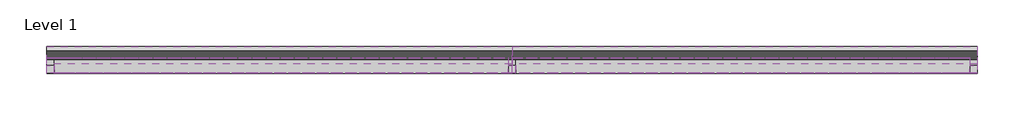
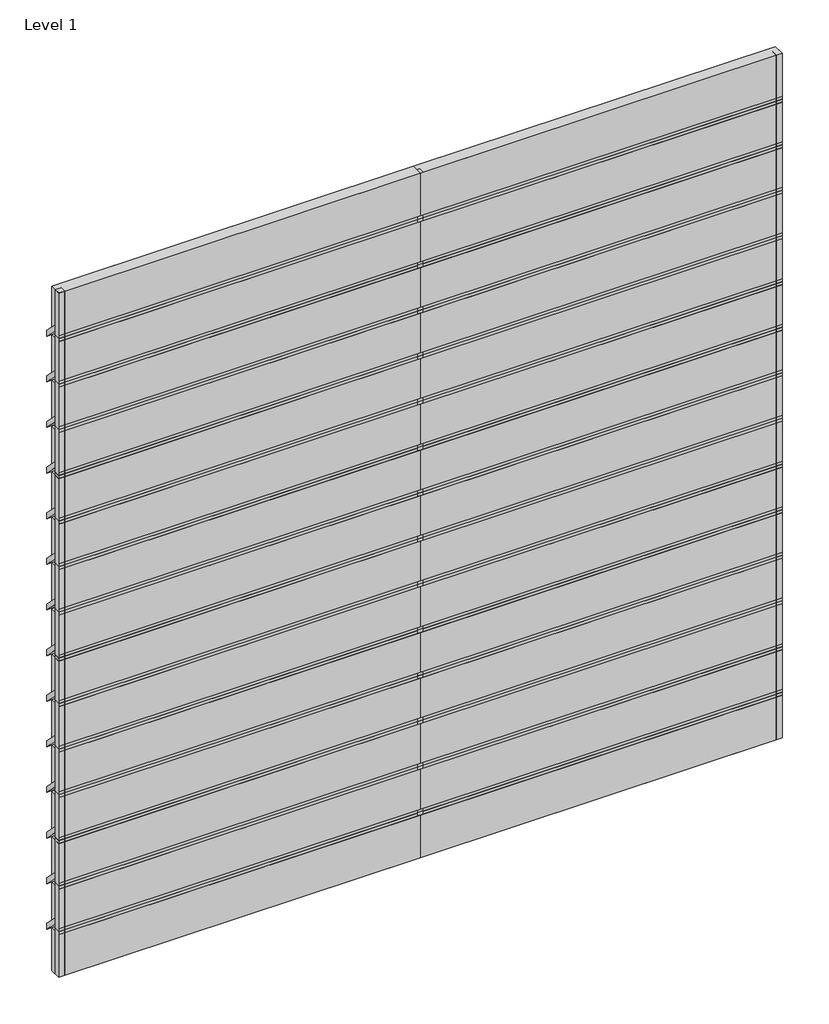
# One storey: 73 members, 60 plates.
"""IFC4 building model written with IfcOpenShell, lengths in millimetres."""

from ifc_helpers import new_model, si_unit, origin, place, context, project, spatial, transform, mapped, element, save
from components import rectangular_mullion_321bab66, rectangular_mullion_3c6e38bc, rectangular_mullion_05cc9e47, rectangular_mullion_4a4034a1, empty_system_panel_empty_1240f5db, empty_system_panel_empty_409dc61d, empty_system_panel_empty_0ce9900c

model = new_model("IFC4")

# Units and contexts
model_context = context("Model", 3, world=origin())
ifc_project = project(units=[si_unit("LENGTHUNIT", "METRE", prefix="MILLI")], contexts=[model_context])

# Site, building, storey
site = spatial("IfcSite", under=ifc_project)
building = spatial("IfcBuilding", under=site)
storey = spatial("IfcBuildingStorey", under=building, Name="Level 1", Elevation=0.0)

# Members
placement = place(None, origin())
rectangular_mullion_shape = rectangular_mullion_321bab66(model_context)
element("IfcMember", 1, ObjectType="Rectangular Mullion : RSen_21_CWM_blade - linear 200_gen_duco projects", at=placement, inside=storey, context=model_context, shape_type="MappedRepresentation", body=[
    mapped(rectangular_mullion_shape, transform((3000.0, 3000.0, 400.0), x_axis=(0.0, 0.0, 1.0), y_axis=(0.0, 1.0, 0.0), z_axis=(-1.0, 0.0, 0.0))),
])
element("IfcMember", 2, ObjectType="Rectangular Mullion : RSen_21_CWM_blade - linear 200_gen_duco projects", at=placement, inside=storey, context=model_context, shape_type="MappedRepresentation", body=[
    mapped(rectangular_mullion_shape, transform((3000.0, 3000.0, 800.0), x_axis=(0.0, 0.0, 1.0), y_axis=(0.0, 1.0, 0.0), z_axis=(-1.0, 0.0, 0.0))),
])
element("IfcMember", 3, ObjectType="Rectangular Mullion : RSen_21_CWM_blade - linear 200_gen_duco projects", at=placement, inside=storey, context=model_context, shape_type="MappedRepresentation", body=[
    mapped(rectangular_mullion_shape, transform((3000.0, 3000.0, 1200.0), x_axis=(0.0, 0.0, 1.0), y_axis=(0.0, 1.0, 0.0), z_axis=(-1.0, 0.0, 0.0))),
])
element("IfcMember", 4, ObjectType="Rectangular Mullion : RSen_21_CWM_blade - linear 200_gen_duco projects", at=placement, inside=storey, context=model_context, shape_type="MappedRepresentation", body=[
    mapped(rectangular_mullion_shape, transform((3000.0, 3000.0, 1600.0), x_axis=(0.0, 0.0, 1.0), y_axis=(0.0, 1.0, 0.0), z_axis=(-1.0, 0.0, 0.0))),
])
element("IfcMember", 5, ObjectType="Rectangular Mullion : RSen_21_CWM_blade - linear 200_gen_duco projects", at=placement, inside=storey, context=model_context, shape_type="MappedRepresentation", body=[
    mapped(rectangular_mullion_shape, transform((3000.0, 3000.0, 2000.0), x_axis=(0.0, 0.0, 1.0), y_axis=(0.0, 1.0, 0.0), z_axis=(-1.0, 0.0, 0.0))),
])
element("IfcMember", 6, ObjectType="Rectangular Mullion : RSen_21_CWM_blade - linear 200_gen_duco projects", at=placement, inside=storey, context=model_context, shape_type="MappedRepresentation", body=[
    mapped(rectangular_mullion_shape, transform((3000.0, 3000.0, 2400.0), x_axis=(0.0, 0.0, 1.0), y_axis=(0.0, 1.0, 0.0), z_axis=(-1.0, 0.0, 0.0))),
])
element("IfcMember", 7, ObjectType="Rectangular Mullion : RSen_21_CWM_blade - linear 200_gen_duco projects", at=placement, inside=storey, context=model_context, shape_type="MappedRepresentation", body=[
    mapped(rectangular_mullion_shape, transform((3000.0, 3000.0, 2800.0), x_axis=(0.0, 0.0, 1.0), y_axis=(0.0, 1.0, 0.0), z_axis=(-1.0, 0.0, 0.0))),
])
element("IfcMember", 8, ObjectType="Rectangular Mullion : RSen_21_CWM_blade - linear 200_gen_duco projects", at=placement, inside=storey, context=model_context, shape_type="MappedRepresentation", body=[
    mapped(rectangular_mullion_shape, transform((3000.0, 3000.0, 3200.0), x_axis=(0.0, 0.0, 1.0), y_axis=(0.0, 1.0, 0.0), z_axis=(-1.0, 0.0, 0.0))),
])
element("IfcMember", 9, ObjectType="Rectangular Mullion : RSen_21_CWM_blade - linear 200_gen_duco projects", at=placement, inside=storey, context=model_context, shape_type="MappedRepresentation", body=[
    mapped(rectangular_mullion_shape, transform((3000.0, 3000.0, 3600.0), x_axis=(0.0, 0.0, 1.0), y_axis=(0.0, 1.0, 0.0), z_axis=(-1.0, 0.0, 0.0))),
])
element("IfcMember", 10, ObjectType="Rectangular Mullion : RSen_21_CWM_blade - linear 200_gen_duco projects", at=placement, inside=storey, context=model_context, shape_type="MappedRepresentation", body=[
    mapped(rectangular_mullion_shape, transform((3000.0, 3000.0, 4000.0), x_axis=(0.0, 0.0, 1.0), y_axis=(0.0, 1.0, 0.0), z_axis=(-1.0, 0.0, 0.0))),
])
element("IfcMember", 11, ObjectType="Rectangular Mullion : RSen_21_CWM_blade - linear 200_gen_duco projects", at=placement, inside=storey, context=model_context, shape_type="MappedRepresentation", body=[
    mapped(rectangular_mullion_shape, transform((3000.0, 3000.0, 4400.0), x_axis=(0.0, 0.0, 1.0), y_axis=(0.0, 1.0, 0.0), z_axis=(-1.0, 0.0, 0.0))),
])
element("IfcMember", 12, ObjectType="Rectangular Mullion : RSen_21_CWM_blade - linear 200_gen_duco projects", at=placement, inside=storey, context=model_context, shape_type="MappedRepresentation", body=[
    mapped(rectangular_mullion_shape, transform((3000.0, 3000.0, 4800.0), x_axis=(0.0, 0.0, 1.0), y_axis=(0.0, 1.0, 0.0), z_axis=(-1.0, 0.0, 0.0))),
])
element("IfcMember", 13, ObjectType="Rectangular Mullion : RSen_21_CWM_blade - linear 200_gen_duco projects", at=placement, inside=storey, context=model_context, shape_type="MappedRepresentation", body=[
    mapped(rectangular_mullion_shape, transform((3000.0, 3000.0, 5200.0), x_axis=(0.0, 0.0, 1.0), y_axis=(0.0, 1.0, 0.0), z_axis=(-1.0, 0.0, 0.0))),
])
element("IfcMember", 14, ObjectType="Rectangular Mullion : RSen_21_CWM_blade - linear 200_gen_duco projects", at=placement, inside=storey, context=model_context, shape_type="MappedRepresentation", body=[
    mapped(rectangular_mullion_shape, transform((3000.0, 3000.0, 5600.0), x_axis=(0.0, 0.0, 1.0), y_axis=(0.0, 1.0, 0.0), z_axis=(-1.0, 0.0, 0.0))),
])
element("IfcMember", 15, ObjectType="Rectangular Mullion : RSen_21_CWM_blade - linear 200_gen_duco projects", at=placement, inside=storey, context=model_context, shape_type="MappedRepresentation", body=[
    mapped(rectangular_mullion_shape, transform((0.0, 3000.0, 400.0), x_axis=(0.0, 0.0, 1.0), y_axis=(0.0, 1.0, 0.0), z_axis=(-1.0, 0.0, 0.0))),
])
element("IfcMember", 16, ObjectType="Rectangular Mullion : RSen_21_CWM_blade - linear 200_gen_duco projects", at=placement, inside=storey, context=model_context, shape_type="MappedRepresentation", body=[
    mapped(rectangular_mullion_shape, transform((0.0, 3000.0, 800.0), x_axis=(0.0, 0.0, 1.0), y_axis=(0.0, 1.0, 0.0), z_axis=(-1.0, 0.0, 0.0))),
])
element("IfcMember", 17, ObjectType="Rectangular Mullion : RSen_21_CWM_blade - linear 200_gen_duco projects", at=placement, inside=storey, context=model_context, shape_type="MappedRepresentation", body=[
    mapped(rectangular_mullion_shape, transform((0.0, 3000.0, 1200.0), x_axis=(0.0, 0.0, 1.0), y_axis=(0.0, 1.0, 0.0), z_axis=(-1.0, 0.0, 0.0))),
])
element("IfcMember", 18, ObjectType="Rectangular Mullion : RSen_21_CWM_blade - linear 200_gen_duco projects", at=placement, inside=storey, context=model_context, shape_type="MappedRepresentation", body=[
    mapped(rectangular_mullion_shape, transform((0.0, 3000.0, 1600.0), x_axis=(0.0, 0.0, 1.0), y_axis=(0.0, 1.0, 0.0), z_axis=(-1.0, 0.0, 0.0))),
])
element("IfcMember", 19, ObjectType="Rectangular Mullion : RSen_21_CWM_blade - linear 200_gen_duco projects", at=placement, inside=storey, context=model_context, shape_type="MappedRepresentation", body=[
    mapped(rectangular_mullion_shape, transform((0.0, 3000.0, 2000.0), x_axis=(0.0, 0.0, 1.0), y_axis=(0.0, 1.0, 0.0), z_axis=(-1.0, 0.0, 0.0))),
])
element("IfcMember", 20, ObjectType="Rectangular Mullion : RSen_21_CWM_blade - linear 200_gen_duco projects", at=placement, inside=storey, context=model_context, shape_type="MappedRepresentation", body=[
    mapped(rectangular_mullion_shape, transform((0.0, 3000.0, 2400.0), x_axis=(0.0, 0.0, 1.0), y_axis=(0.0, 1.0, 0.0), z_axis=(-1.0, 0.0, 0.0))),
])
element("IfcMember", 21, ObjectType="Rectangular Mullion : RSen_21_CWM_blade - linear 200_gen_duco projects", at=placement, inside=storey, context=model_context, shape_type="MappedRepresentation", body=[
    mapped(rectangular_mullion_shape, transform((0.0, 3000.0, 2800.0), x_axis=(0.0, 0.0, 1.0), y_axis=(0.0, 1.0, 0.0), z_axis=(-1.0, 0.0, 0.0))),
])
element("IfcMember", 22, ObjectType="Rectangular Mullion : RSen_21_CWM_blade - linear 200_gen_duco projects", at=placement, inside=storey, context=model_context, shape_type="MappedRepresentation", body=[
    mapped(rectangular_mullion_shape, transform((0.0, 3000.0, 3200.0), x_axis=(0.0, 0.0, 1.0), y_axis=(0.0, 1.0, 0.0), z_axis=(-1.0, 0.0, 0.0))),
])
element("IfcMember", 23, ObjectType="Rectangular Mullion : RSen_21_CWM_blade - linear 200_gen_duco projects", at=placement, inside=storey, context=model_context, shape_type="MappedRepresentation", body=[
    mapped(rectangular_mullion_shape, transform((0.0, 3000.0, 3600.0), x_axis=(0.0, 0.0, 1.0), y_axis=(0.0, 1.0, 0.0), z_axis=(-1.0, 0.0, 0.0))),
])
element("IfcMember", 24, ObjectType="Rectangular Mullion : RSen_21_CWM_blade - linear 200_gen_duco projects", at=placement, inside=storey, context=model_context, shape_type="MappedRepresentation", body=[
    mapped(rectangular_mullion_shape, transform((0.0, 3000.0, 4000.0), x_axis=(0.0, 0.0, 1.0), y_axis=(0.0, 1.0, 0.0), z_axis=(-1.0, 0.0, 0.0))),
])
element("IfcMember", 25, ObjectType="Rectangular Mullion : RSen_21_CWM_blade - linear 200_gen_duco projects", at=placement, inside=storey, context=model_context, shape_type="MappedRepresentation", body=[
    mapped(rectangular_mullion_shape, transform((0.0, 3000.0, 4400.0), x_axis=(0.0, 0.0, 1.0), y_axis=(0.0, 1.0, 0.0), z_axis=(-1.0, 0.0, 0.0))),
])
element("IfcMember", 26, ObjectType="Rectangular Mullion : RSen_21_CWM_blade - linear 200_gen_duco projects", at=placement, inside=storey, context=model_context, shape_type="MappedRepresentation", body=[
    mapped(rectangular_mullion_shape, transform((0.0, 3000.0, 4800.0), x_axis=(0.0, 0.0, 1.0), y_axis=(0.0, 1.0, 0.0), z_axis=(-1.0, 0.0, 0.0))),
])
element("IfcMember", 27, ObjectType="Rectangular Mullion : RSen_21_CWM_blade - linear 200_gen_duco projects", at=placement, inside=storey, context=model_context, shape_type="MappedRepresentation", body=[
    mapped(rectangular_mullion_shape, transform((0.0, 3000.0, 5200.0), x_axis=(0.0, 0.0, 1.0), y_axis=(0.0, 1.0, 0.0), z_axis=(-1.0, 0.0, 0.0))),
])
element("IfcMember", 28, ObjectType="Rectangular Mullion : RSen_21_CWM_blade - linear 200_gen_duco projects", at=placement, inside=storey, context=model_context, shape_type="MappedRepresentation", body=[
    mapped(rectangular_mullion_shape, transform((0.0, 3000.0, 5600.0), x_axis=(0.0, 0.0, 1.0), y_axis=(0.0, 1.0, 0.0), z_axis=(-1.0, 0.0, 0.0))),
])
rectangular_mullion_2_shape = rectangular_mullion_3c6e38bc(model_context)
element("IfcMember", 29, ObjectType="Rectangular Mullion : RSen_21_CWM_support profile 50x50_gen_duco projects", at=placement, inside=storey, context=model_context, shape_type="MappedRepresentation", body=[
    mapped(rectangular_mullion_2_shape, transform((3000.0, 3000.0, 0.0), x_axis=(-1.0, 0.0, 0.0), y_axis=(0.0, 1.0, 0.0), z_axis=(0.0, 0.0, -1.0))),
])
element("IfcMember", 30, ObjectType="Rectangular Mullion : RSen_21_CWM_support profile 50x50_gen_duco projects", at=placement, inside=storey, context=model_context, shape_type="MappedRepresentation", body=[
    mapped(rectangular_mullion_2_shape, transform((3000.0, 3000.0, 400.0), x_axis=(-1.0, 0.0, 0.0), y_axis=(0.0, 1.0, 0.0), z_axis=(0.0, 0.0, -1.0))),
])
element("IfcMember", 31, ObjectType="Rectangular Mullion : RSen_21_CWM_support profile 50x50_gen_duco projects", at=placement, inside=storey, context=model_context, shape_type="MappedRepresentation", body=[
    mapped(rectangular_mullion_2_shape, transform((3000.0, 3000.0, 800.0), x_axis=(-1.0, 0.0, 0.0), y_axis=(0.0, 1.0, 0.0), z_axis=(0.0, 0.0, -1.0))),
])
element("IfcMember", 32, ObjectType="Rectangular Mullion : RSen_21_CWM_support profile 50x50_gen_duco projects", at=placement, inside=storey, context=model_context, shape_type="MappedRepresentation", body=[
    mapped(rectangular_mullion_2_shape, transform((3000.0, 3000.0, 1200.0), x_axis=(-1.0, 0.0, 0.0), y_axis=(0.0, 1.0, 0.0), z_axis=(0.0, 0.0, -1.0))),
])
element("IfcMember", 33, ObjectType="Rectangular Mullion : RSen_21_CWM_support profile 50x50_gen_duco projects", at=placement, inside=storey, context=model_context, shape_type="MappedRepresentation", body=[
    mapped(rectangular_mullion_2_shape, transform((3000.0, 3000.0, 1600.0), x_axis=(-1.0, 0.0, 0.0), y_axis=(0.0, 1.0, 0.0), z_axis=(0.0, 0.0, -1.0))),
])
element("IfcMember", 34, ObjectType="Rectangular Mullion : RSen_21_CWM_support profile 50x50_gen_duco projects", at=placement, inside=storey, context=model_context, shape_type="MappedRepresentation", body=[
    mapped(rectangular_mullion_2_shape, transform((3000.0, 3000.0, 2000.0), x_axis=(-1.0, 0.0, 0.0), y_axis=(0.0, 1.0, 0.0), z_axis=(0.0, 0.0, -1.0))),
])
element("IfcMember", 35, ObjectType="Rectangular Mullion : RSen_21_CWM_support profile 50x50_gen_duco projects", at=placement, inside=storey, context=model_context, shape_type="MappedRepresentation", body=[
    mapped(rectangular_mullion_2_shape, transform((3000.0, 3000.0, 2400.0), x_axis=(-1.0, 0.0, 0.0), y_axis=(0.0, 1.0, 0.0), z_axis=(0.0, 0.0, -1.0))),
])
element("IfcMember", 36, ObjectType="Rectangular Mullion : RSen_21_CWM_support profile 50x50_gen_duco projects", at=placement, inside=storey, context=model_context, shape_type="MappedRepresentation", body=[
    mapped(rectangular_mullion_2_shape, transform((3000.0, 3000.0, 2800.0), x_axis=(-1.0, 0.0, 0.0), y_axis=(0.0, 1.0, 0.0), z_axis=(0.0, 0.0, -1.0))),
])
element("IfcMember", 37, ObjectType="Rectangular Mullion : RSen_21_CWM_support profile 50x50_gen_duco projects", at=placement, inside=storey, context=model_context, shape_type="MappedRepresentation", body=[
    mapped(rectangular_mullion_2_shape, transform((3000.0, 3000.0, 3200.0), x_axis=(-1.0, 0.0, 0.0), y_axis=(0.0, 1.0, 0.0), z_axis=(0.0, 0.0, -1.0))),
])
element("IfcMember", 38, ObjectType="Rectangular Mullion : RSen_21_CWM_support profile 50x50_gen_duco projects", at=placement, inside=storey, context=model_context, shape_type="MappedRepresentation", body=[
    mapped(rectangular_mullion_2_shape, transform((3000.0, 3000.0, 3600.0), x_axis=(-1.0, 0.0, 0.0), y_axis=(0.0, 1.0, 0.0), z_axis=(0.0, 0.0, -1.0))),
])
element("IfcMember", 39, ObjectType="Rectangular Mullion : RSen_21_CWM_support profile 50x50_gen_duco projects", at=placement, inside=storey, context=model_context, shape_type="MappedRepresentation", body=[
    mapped(rectangular_mullion_2_shape, transform((3000.0, 3000.0, 4000.0), x_axis=(-1.0, 0.0, 0.0), y_axis=(0.0, 1.0, 0.0), z_axis=(0.0, 0.0, -1.0))),
])
element("IfcMember", 40, ObjectType="Rectangular Mullion : RSen_21_CWM_support profile 50x50_gen_duco projects", at=placement, inside=storey, context=model_context, shape_type="MappedRepresentation", body=[
    mapped(rectangular_mullion_2_shape, transform((3000.0, 3000.0, 4400.0), x_axis=(-1.0, 0.0, 0.0), y_axis=(0.0, 1.0, 0.0), z_axis=(0.0, 0.0, -1.0))),
])
element("IfcMember", 41, ObjectType="Rectangular Mullion : RSen_21_CWM_support profile 50x50_gen_duco projects", at=placement, inside=storey, context=model_context, shape_type="MappedRepresentation", body=[
    mapped(rectangular_mullion_2_shape, transform((3000.0, 3000.0, 4800.0), x_axis=(-1.0, 0.0, 0.0), y_axis=(0.0, 1.0, 0.0), z_axis=(0.0, 0.0, -1.0))),
])
element("IfcMember", 42, ObjectType="Rectangular Mullion : RSen_21_CWM_support profile 50x50_gen_duco projects", at=placement, inside=storey, context=model_context, shape_type="MappedRepresentation", body=[
    mapped(rectangular_mullion_2_shape, transform((3000.0, 3000.0, 5200.0), x_axis=(-1.0, 0.0, 0.0), y_axis=(0.0, 1.0, 0.0), z_axis=(0.0, 0.0, -1.0))),
])
element("IfcMember", 43, ObjectType="Rectangular Mullion : RSen_21_CWM_support profile 50x50_gen_duco projects", at=placement, inside=storey, context=model_context, shape_type="MappedRepresentation", body=[
    mapped(rectangular_mullion_2_shape, transform((3000.0, 3000.0, 5600.0), x_axis=(-1.0, 0.0, 0.0), y_axis=(0.0, 1.0, 0.0), z_axis=(0.0, 0.0, -1.0))),
])
rectangular_mullion_3_shape = rectangular_mullion_05cc9e47(model_context)
element("IfcMember", 44, ObjectType="Rectangular Mullion : RSen_21_CWM_support profile 50x50 - left_gen_duco projects", at=placement, inside=storey, context=model_context, shape_type="MappedRepresentation", body=[
    mapped(rectangular_mullion_3_shape, transform((0.0, 3000.0, 0.0), x_axis=(-1.0, 0.0, 0.0), y_axis=(0.0, 1.0, 0.0), z_axis=(0.0, 0.0, -1.0))),
])
rectangular_mullion_4_shape = rectangular_mullion_4a4034a1(model_context)
element("IfcMember", 45, ObjectType="Rectangular Mullion : RSen_21_CWM_support profile 50x50 - right_gen_duco projects", at=placement, inside=storey, context=model_context, shape_type="MappedRepresentation", body=[
    mapped(rectangular_mullion_4_shape, transform((6000.0, 3000.0, 6000.0), x_axis=(1.0, 0.0, 0.0), y_axis=(0.0, 1.0, 0.0), z_axis=(0.0, 0.0, 1.0))),
])
element("IfcMember", 46, ObjectType="Rectangular Mullion : RSen_21_CWM_support profile 50x50 - left_gen_duco projects", at=placement, inside=storey, context=model_context, shape_type="MappedRepresentation", body=[
    mapped(rectangular_mullion_3_shape, transform((0.0, 3000.0, 400.0), x_axis=(-1.0, 0.0, 0.0), y_axis=(0.0, 1.0, 0.0), z_axis=(0.0, 0.0, -1.0))),
])
element("IfcMember", 47, ObjectType="Rectangular Mullion : RSen_21_CWM_support profile 50x50 - left_gen_duco projects", at=placement, inside=storey, context=model_context, shape_type="MappedRepresentation", body=[
    mapped(rectangular_mullion_3_shape, transform((0.0, 3000.0, 800.0), x_axis=(-1.0, 0.0, 0.0), y_axis=(0.0, 1.0, 0.0), z_axis=(0.0, 0.0, -1.0))),
])
element("IfcMember", 48, ObjectType="Rectangular Mullion : RSen_21_CWM_support profile 50x50 - left_gen_duco projects", at=placement, inside=storey, context=model_context, shape_type="MappedRepresentation", body=[
    mapped(rectangular_mullion_3_shape, transform((0.0, 3000.0, 1200.0), x_axis=(-1.0, 0.0, 0.0), y_axis=(0.0, 1.0, 0.0), z_axis=(0.0, 0.0, -1.0))),
])
element("IfcMember", 49, ObjectType="Rectangular Mullion : RSen_21_CWM_support profile 50x50 - left_gen_duco projects", at=placement, inside=storey, context=model_context, shape_type="MappedRepresentation", body=[
    mapped(rectangular_mullion_3_shape, transform((0.0, 3000.0, 1600.0), x_axis=(-1.0, 0.0, 0.0), y_axis=(0.0, 1.0, 0.0), z_axis=(0.0, 0.0, -1.0))),
])
element("IfcMember", 50, ObjectType="Rectangular Mullion : RSen_21_CWM_support profile 50x50 - left_gen_duco projects", at=placement, inside=storey, context=model_context, shape_type="MappedRepresentation", body=[
    mapped(rectangular_mullion_3_shape, transform((0.0, 3000.0, 2000.0), x_axis=(-1.0, 0.0, 0.0), y_axis=(0.0, 1.0, 0.0), z_axis=(0.0, 0.0, -1.0))),
])
element("IfcMember", 51, ObjectType="Rectangular Mullion : RSen_21_CWM_support profile 50x50 - left_gen_duco projects", at=placement, inside=storey, context=model_context, shape_type="MappedRepresentation", body=[
    mapped(rectangular_mullion_3_shape, transform((0.0, 3000.0, 2400.0), x_axis=(-1.0, 0.0, 0.0), y_axis=(0.0, 1.0, 0.0), z_axis=(0.0, 0.0, -1.0))),
])
element("IfcMember", 52, ObjectType="Rectangular Mullion : RSen_21_CWM_support profile 50x50 - left_gen_duco projects", at=placement, inside=storey, context=model_context, shape_type="MappedRepresentation", body=[
    mapped(rectangular_mullion_3_shape, transform((0.0, 3000.0, 2800.0), x_axis=(-1.0, 0.0, 0.0), y_axis=(0.0, 1.0, 0.0), z_axis=(0.0, 0.0, -1.0))),
])
element("IfcMember", 53, ObjectType="Rectangular Mullion : RSen_21_CWM_support profile 50x50 - left_gen_duco projects", at=placement, inside=storey, context=model_context, shape_type="MappedRepresentation", body=[
    mapped(rectangular_mullion_3_shape, transform((0.0, 3000.0, 3200.0), x_axis=(-1.0, 0.0, 0.0), y_axis=(0.0, 1.0, 0.0), z_axis=(0.0, 0.0, -1.0))),
])
element("IfcMember", 54, ObjectType="Rectangular Mullion : RSen_21_CWM_support profile 50x50 - left_gen_duco projects", at=placement, inside=storey, context=model_context, shape_type="MappedRepresentation", body=[
    mapped(rectangular_mullion_3_shape, transform((0.0, 3000.0, 3600.0), x_axis=(-1.0, 0.0, 0.0), y_axis=(0.0, 1.0, 0.0), z_axis=(0.0, 0.0, -1.0))),
])
element("IfcMember", 55, ObjectType="Rectangular Mullion : RSen_21_CWM_support profile 50x50 - left_gen_duco projects", at=placement, inside=storey, context=model_context, shape_type="MappedRepresentation", body=[
    mapped(rectangular_mullion_3_shape, transform((0.0, 3000.0, 4000.0), x_axis=(-1.0, 0.0, 0.0), y_axis=(0.0, 1.0, 0.0), z_axis=(0.0, 0.0, -1.0))),
])
element("IfcMember", 56, ObjectType="Rectangular Mullion : RSen_21_CWM_support profile 50x50 - left_gen_duco projects", at=placement, inside=storey, context=model_context, shape_type="MappedRepresentation", body=[
    mapped(rectangular_mullion_3_shape, transform((0.0, 3000.0, 4400.0), x_axis=(-1.0, 0.0, 0.0), y_axis=(0.0, 1.0, 0.0), z_axis=(0.0, 0.0, -1.0))),
])
element("IfcMember", 57, ObjectType="Rectangular Mullion : RSen_21_CWM_support profile 50x50 - left_gen_duco projects", at=placement, inside=storey, context=model_context, shape_type="MappedRepresentation", body=[
    mapped(rectangular_mullion_3_shape, transform((0.0, 3000.0, 4800.0), x_axis=(-1.0, 0.0, 0.0), y_axis=(0.0, 1.0, 0.0), z_axis=(0.0, 0.0, -1.0))),
])
element("IfcMember", 58, ObjectType="Rectangular Mullion : RSen_21_CWM_support profile 50x50 - left_gen_duco projects", at=placement, inside=storey, context=model_context, shape_type="MappedRepresentation", body=[
    mapped(rectangular_mullion_3_shape, transform((0.0, 3000.0, 5200.0), x_axis=(-1.0, 0.0, 0.0), y_axis=(0.0, 1.0, 0.0), z_axis=(0.0, 0.0, -1.0))),
])
element("IfcMember", 59, ObjectType="Rectangular Mullion : RSen_21_CWM_support profile 50x50 - left_gen_duco projects", at=placement, inside=storey, context=model_context, shape_type="MappedRepresentation", body=[
    mapped(rectangular_mullion_3_shape, transform((0.0, 3000.0, 5600.0), x_axis=(-1.0, 0.0, 0.0), y_axis=(0.0, 1.0, 0.0), z_axis=(0.0, 0.0, -1.0))),
])
element("IfcMember", 60, ObjectType="Rectangular Mullion : RSen_21_CWM_support profile 50x50 - right_gen_duco projects", at=placement, inside=storey, context=model_context, shape_type="MappedRepresentation", body=[
    mapped(rectangular_mullion_4_shape, transform((6000.0, 3000.0, 400.0), x_axis=(1.0, 0.0, 0.0), y_axis=(0.0, 1.0, 0.0), z_axis=(0.0, 0.0, 1.0))),
])
element("IfcMember", 61, ObjectType="Rectangular Mullion : RSen_21_CWM_support profile 50x50 - right_gen_duco projects", at=placement, inside=storey, context=model_context, shape_type="MappedRepresentation", body=[
    mapped(rectangular_mullion_4_shape, transform((6000.0, 3000.0, 800.0), x_axis=(1.0, 0.0, 0.0), y_axis=(0.0, 1.0, 0.0), z_axis=(0.0, 0.0, 1.0))),
])
element("IfcMember", 62, ObjectType="Rectangular Mullion : RSen_21_CWM_support profile 50x50 - right_gen_duco projects", at=placement, inside=storey, context=model_context, shape_type="MappedRepresentation", body=[
    mapped(rectangular_mullion_4_shape, transform((6000.0, 3000.0, 1200.0), x_axis=(1.0, 0.0, 0.0), y_axis=(0.0, 1.0, 0.0), z_axis=(0.0, 0.0, 1.0))),
])
element("IfcMember", 63, ObjectType="Rectangular Mullion : RSen_21_CWM_support profile 50x50 - right_gen_duco projects", at=placement, inside=storey, context=model_context, shape_type="MappedRepresentation", body=[
    mapped(rectangular_mullion_4_shape, transform((6000.0, 3000.0, 1600.0), x_axis=(1.0, 0.0, 0.0), y_axis=(0.0, 1.0, 0.0), z_axis=(0.0, 0.0, 1.0))),
])
element("IfcMember", 64, ObjectType="Rectangular Mullion : RSen_21_CWM_support profile 50x50 - right_gen_duco projects", at=placement, inside=storey, context=model_context, shape_type="MappedRepresentation", body=[
    mapped(rectangular_mullion_4_shape, transform((6000.0, 3000.0, 2000.0), x_axis=(1.0, 0.0, 0.0), y_axis=(0.0, 1.0, 0.0), z_axis=(0.0, 0.0, 1.0))),
])
element("IfcMember", 65, ObjectType="Rectangular Mullion : RSen_21_CWM_support profile 50x50 - right_gen_duco projects", at=placement, inside=storey, context=model_context, shape_type="MappedRepresentation", body=[
    mapped(rectangular_mullion_4_shape, transform((6000.0, 3000.0, 2400.0), x_axis=(1.0, 0.0, 0.0), y_axis=(0.0, 1.0, 0.0), z_axis=(0.0, 0.0, 1.0))),
])
element("IfcMember", 66, ObjectType="Rectangular Mullion : RSen_21_CWM_support profile 50x50 - right_gen_duco projects", at=placement, inside=storey, context=model_context, shape_type="MappedRepresentation", body=[
    mapped(rectangular_mullion_4_shape, transform((6000.0, 3000.0, 2800.0), x_axis=(1.0, 0.0, 0.0), y_axis=(0.0, 1.0, 0.0), z_axis=(0.0, 0.0, 1.0))),
])
element("IfcMember", 67, ObjectType="Rectangular Mullion : RSen_21_CWM_support profile 50x50 - right_gen_duco projects", at=placement, inside=storey, context=model_context, shape_type="MappedRepresentation", body=[
    mapped(rectangular_mullion_4_shape, transform((6000.0, 3000.0, 3200.0), x_axis=(1.0, 0.0, 0.0), y_axis=(0.0, 1.0, 0.0), z_axis=(0.0, 0.0, 1.0))),
])
element("IfcMember", 68, ObjectType="Rectangular Mullion : RSen_21_CWM_support profile 50x50 - right_gen_duco projects", at=placement, inside=storey, context=model_context, shape_type="MappedRepresentation", body=[
    mapped(rectangular_mullion_4_shape, transform((6000.0, 3000.0, 3600.0), x_axis=(1.0, 0.0, 0.0), y_axis=(0.0, 1.0, 0.0), z_axis=(0.0, 0.0, 1.0))),
])
element("IfcMember", 69, ObjectType="Rectangular Mullion : RSen_21_CWM_support profile 50x50 - right_gen_duco projects", at=placement, inside=storey, context=model_context, shape_type="MappedRepresentation", body=[
    mapped(rectangular_mullion_4_shape, transform((6000.0, 3000.0, 4000.0), x_axis=(1.0, 0.0, 0.0), y_axis=(0.0, 1.0, 0.0), z_axis=(0.0, 0.0, 1.0))),
])
element("IfcMember", 70, ObjectType="Rectangular Mullion : RSen_21_CWM_support profile 50x50 - right_gen_duco projects", at=placement, inside=storey, context=model_context, shape_type="MappedRepresentation", body=[
    mapped(rectangular_mullion_4_shape, transform((6000.0, 3000.0, 4400.0), x_axis=(1.0, 0.0, 0.0), y_axis=(0.0, 1.0, 0.0), z_axis=(0.0, 0.0, 1.0))),
])
element("IfcMember", 71, ObjectType="Rectangular Mullion : RSen_21_CWM_support profile 50x50 - right_gen_duco projects", at=placement, inside=storey, context=model_context, shape_type="MappedRepresentation", body=[
    mapped(rectangular_mullion_4_shape, transform((6000.0, 3000.0, 4800.0), x_axis=(1.0, 0.0, 0.0), y_axis=(0.0, 1.0, 0.0), z_axis=(0.0, 0.0, 1.0))),
])
element("IfcMember", 72, ObjectType="Rectangular Mullion : RSen_21_CWM_support profile 50x50 - right_gen_duco projects", at=placement, inside=storey, context=model_context, shape_type="MappedRepresentation", body=[
    mapped(rectangular_mullion_4_shape, transform((6000.0, 3000.0, 5200.0), x_axis=(1.0, 0.0, 0.0), y_axis=(0.0, 1.0, 0.0), z_axis=(0.0, 0.0, 1.0))),
])
element("IfcMember", 73, ObjectType="Rectangular Mullion : RSen_21_CWM_support profile 50x50 - right_gen_duco projects", at=placement, inside=storey, context=model_context, shape_type="MappedRepresentation", body=[
    mapped(rectangular_mullion_4_shape, transform((6000.0, 3000.0, 5600.0), x_axis=(1.0, 0.0, 0.0), y_axis=(0.0, 1.0, 0.0), z_axis=(0.0, 0.0, 1.0))),
])

# Plates
empty_system_panel_empty_shape = empty_system_panel_empty_1240f5db(model_context)
element("IfcPlate", 74, ObjectType="Empty System Panel : Empty", at=placement, inside=storey, context=model_context, shape_type="MappedRepresentation", body=[
    mapped(empty_system_panel_empty_shape, transform((4500.0, 3000.0, 0.0), x_axis=(-1.0, 0.0, 0.0), y_axis=(0.0, -1.0, 0.0), z_axis=(0.0, 0.0, 1.0))),
])
element("IfcPlate", 75, ObjectType="Empty System Panel : Empty", at=placement, inside=storey, context=model_context, shape_type="MappedRepresentation", body=[
    mapped(empty_system_panel_empty_shape, transform((1500.0, 3000.0, 0.0), x_axis=(-1.0, 0.0, 0.0), y_axis=(0.0, -1.0, 0.0), z_axis=(0.0, 0.0, 1.0))),
])
element("IfcPlate", 76, ObjectType="Empty System Panel : Empty", at=placement, inside=storey, context=model_context, shape_type="MappedRepresentation", body=[
    mapped(empty_system_panel_empty_shape, transform((4500.0, 3000.0, 5626.1629509), x_axis=(-1.0, 0.0, 0.0), y_axis=(0.0, -1.0, 0.0), z_axis=(0.0, 0.0, 1.0))),
])
element("IfcPlate", 77, ObjectType="Empty System Panel : Empty", at=placement, inside=storey, context=model_context, shape_type="MappedRepresentation", body=[
    mapped(empty_system_panel_empty_shape, transform((1500.0, 3000.0, 5626.1629509), x_axis=(-1.0, 0.0, 0.0), y_axis=(0.0, -1.0, 0.0), z_axis=(0.0, 0.0, 1.0))),
])
empty_system_panel_empty_2_shape = empty_system_panel_empty_409dc61d(model_context)
element("IfcPlate", 78, ObjectType="Empty System Panel : Empty", at=placement, inside=storey, context=model_context, shape_type="MappedRepresentation", body=[
    mapped(empty_system_panel_empty_2_shape, transform((4500.0, 3000.0, 426.1629509), x_axis=(-1.0, 0.0, 0.0), y_axis=(0.0, -1.0, 0.0), z_axis=(0.0, 0.0, 1.0))),
])
element("IfcPlate", 79, ObjectType="Empty System Panel : Empty", at=placement, inside=storey, context=model_context, shape_type="MappedRepresentation", body=[
    mapped(empty_system_panel_empty_2_shape, transform((1500.0, 3000.0, 426.1629509), x_axis=(-1.0, 0.0, 0.0), y_axis=(0.0, -1.0, 0.0), z_axis=(0.0, 0.0, 1.0))),
])
element("IfcPlate", 80, ObjectType="Empty System Panel : Empty", at=placement, inside=storey, context=model_context, shape_type="MappedRepresentation", body=[
    mapped(empty_system_panel_empty_2_shape, transform((4500.0, 3000.0, 826.1629509), x_axis=(-1.0, 0.0, 0.0), y_axis=(0.0, -1.0, 0.0), z_axis=(0.0, 0.0, 1.0))),
])
element("IfcPlate", 81, ObjectType="Empty System Panel : Empty", at=placement, inside=storey, context=model_context, shape_type="MappedRepresentation", body=[
    mapped(empty_system_panel_empty_2_shape, transform((1500.0, 3000.0, 826.1629509), x_axis=(-1.0, 0.0, 0.0), y_axis=(0.0, -1.0, 0.0), z_axis=(0.0, 0.0, 1.0))),
])
element("IfcPlate", 82, ObjectType="Empty System Panel : Empty", at=placement, inside=storey, context=model_context, shape_type="MappedRepresentation", body=[
    mapped(empty_system_panel_empty_2_shape, transform((4500.0, 3000.0, 1226.1629509), x_axis=(-1.0, 0.0, 0.0), y_axis=(0.0, -1.0, 0.0), z_axis=(0.0, 0.0, 1.0))),
])
element("IfcPlate", 83, ObjectType="Empty System Panel : Empty", at=placement, inside=storey, context=model_context, shape_type="MappedRepresentation", body=[
    mapped(empty_system_panel_empty_2_shape, transform((1500.0, 3000.0, 1226.1629509), x_axis=(-1.0, 0.0, 0.0), y_axis=(0.0, -1.0, 0.0), z_axis=(0.0, 0.0, 1.0))),
])
element("IfcPlate", 84, ObjectType="Empty System Panel : Empty", at=placement, inside=storey, context=model_context, shape_type="MappedRepresentation", body=[
    mapped(empty_system_panel_empty_2_shape, transform((4500.0, 3000.0, 1626.1629509), x_axis=(-1.0, 0.0, 0.0), y_axis=(0.0, -1.0, 0.0), z_axis=(0.0, 0.0, 1.0))),
])
element("IfcPlate", 85, ObjectType="Empty System Panel : Empty", at=placement, inside=storey, context=model_context, shape_type="MappedRepresentation", body=[
    mapped(empty_system_panel_empty_2_shape, transform((1500.0, 3000.0, 1626.1629509), x_axis=(-1.0, 0.0, 0.0), y_axis=(0.0, -1.0, 0.0), z_axis=(0.0, 0.0, 1.0))),
])
element("IfcPlate", 86, ObjectType="Empty System Panel : Empty", at=placement, inside=storey, context=model_context, shape_type="MappedRepresentation", body=[
    mapped(empty_system_panel_empty_2_shape, transform((4500.0, 3000.0, 2026.1629509), x_axis=(-1.0, 0.0, 0.0), y_axis=(0.0, -1.0, 0.0), z_axis=(0.0, 0.0, 1.0))),
])
element("IfcPlate", 87, ObjectType="Empty System Panel : Empty", at=placement, inside=storey, context=model_context, shape_type="MappedRepresentation", body=[
    mapped(empty_system_panel_empty_2_shape, transform((1500.0, 3000.0, 2026.1629509), x_axis=(-1.0, 0.0, 0.0), y_axis=(0.0, -1.0, 0.0), z_axis=(0.0, 0.0, 1.0))),
])
element("IfcPlate", 88, ObjectType="Empty System Panel : Empty", at=placement, inside=storey, context=model_context, shape_type="MappedRepresentation", body=[
    mapped(empty_system_panel_empty_2_shape, transform((4500.0, 3000.0, 2426.1629509), x_axis=(-1.0, 0.0, 0.0), y_axis=(0.0, -1.0, 0.0), z_axis=(0.0, 0.0, 1.0))),
])
element("IfcPlate", 89, ObjectType="Empty System Panel : Empty", at=placement, inside=storey, context=model_context, shape_type="MappedRepresentation", body=[
    mapped(empty_system_panel_empty_2_shape, transform((1500.0, 3000.0, 2426.1629509), x_axis=(-1.0, 0.0, 0.0), y_axis=(0.0, -1.0, 0.0), z_axis=(0.0, 0.0, 1.0))),
])
element("IfcPlate", 90, ObjectType="Empty System Panel : Empty", at=placement, inside=storey, context=model_context, shape_type="MappedRepresentation", body=[
    mapped(empty_system_panel_empty_2_shape, transform((4500.0, 3000.0, 2826.1629509), x_axis=(-1.0, 0.0, 0.0), y_axis=(0.0, -1.0, 0.0), z_axis=(0.0, 0.0, 1.0))),
])
element("IfcPlate", 91, ObjectType="Empty System Panel : Empty", at=placement, inside=storey, context=model_context, shape_type="MappedRepresentation", body=[
    mapped(empty_system_panel_empty_2_shape, transform((1500.0, 3000.0, 2826.1629509), x_axis=(-1.0, 0.0, 0.0), y_axis=(0.0, -1.0, 0.0), z_axis=(0.0, 0.0, 1.0))),
])
element("IfcPlate", 92, ObjectType="Empty System Panel : Empty", at=placement, inside=storey, context=model_context, shape_type="MappedRepresentation", body=[
    mapped(empty_system_panel_empty_2_shape, transform((4500.0, 3000.0, 3226.1629509), x_axis=(-1.0, 0.0, 0.0), y_axis=(0.0, -1.0, 0.0), z_axis=(0.0, 0.0, 1.0))),
])
element("IfcPlate", 93, ObjectType="Empty System Panel : Empty", at=placement, inside=storey, context=model_context, shape_type="MappedRepresentation", body=[
    mapped(empty_system_panel_empty_2_shape, transform((1500.0, 3000.0, 3226.1629509), x_axis=(-1.0, 0.0, 0.0), y_axis=(0.0, -1.0, 0.0), z_axis=(0.0, 0.0, 1.0))),
])
element("IfcPlate", 94, ObjectType="Empty System Panel : Empty", at=placement, inside=storey, context=model_context, shape_type="MappedRepresentation", body=[
    mapped(empty_system_panel_empty_2_shape, transform((4500.0, 3000.0, 3626.1629509), x_axis=(-1.0, 0.0, 0.0), y_axis=(0.0, -1.0, 0.0), z_axis=(0.0, 0.0, 1.0))),
])
element("IfcPlate", 95, ObjectType="Empty System Panel : Empty", at=placement, inside=storey, context=model_context, shape_type="MappedRepresentation", body=[
    mapped(empty_system_panel_empty_2_shape, transform((1500.0, 3000.0, 3626.1629509), x_axis=(-1.0, 0.0, 0.0), y_axis=(0.0, -1.0, 0.0), z_axis=(0.0, 0.0, 1.0))),
])
element("IfcPlate", 96, ObjectType="Empty System Panel : Empty", at=placement, inside=storey, context=model_context, shape_type="MappedRepresentation", body=[
    mapped(empty_system_panel_empty_2_shape, transform((4500.0, 3000.0, 4026.1629509), x_axis=(-1.0, 0.0, 0.0), y_axis=(0.0, -1.0, 0.0), z_axis=(0.0, 0.0, 1.0))),
])
element("IfcPlate", 97, ObjectType="Empty System Panel : Empty", at=placement, inside=storey, context=model_context, shape_type="MappedRepresentation", body=[
    mapped(empty_system_panel_empty_2_shape, transform((1500.0, 3000.0, 4026.1629509), x_axis=(-1.0, 0.0, 0.0), y_axis=(0.0, -1.0, 0.0), z_axis=(0.0, 0.0, 1.0))),
])
element("IfcPlate", 98, ObjectType="Empty System Panel : Empty", at=placement, inside=storey, context=model_context, shape_type="MappedRepresentation", body=[
    mapped(empty_system_panel_empty_2_shape, transform((4500.0, 3000.0, 4426.1629509), x_axis=(-1.0, 0.0, 0.0), y_axis=(0.0, -1.0, 0.0), z_axis=(0.0, 0.0, 1.0))),
])
element("IfcPlate", 99, ObjectType="Empty System Panel : Empty", at=placement, inside=storey, context=model_context, shape_type="MappedRepresentation", body=[
    mapped(empty_system_panel_empty_2_shape, transform((1500.0, 3000.0, 4426.1629509), x_axis=(-1.0, 0.0, 0.0), y_axis=(0.0, -1.0, 0.0), z_axis=(0.0, 0.0, 1.0))),
])
element("IfcPlate", 100, ObjectType="Empty System Panel : Empty", at=placement, inside=storey, context=model_context, shape_type="MappedRepresentation", body=[
    mapped(empty_system_panel_empty_2_shape, transform((4500.0, 3000.0, 4826.1629509), x_axis=(-1.0, 0.0, 0.0), y_axis=(0.0, -1.0, 0.0), z_axis=(0.0, 0.0, 1.0))),
])
element("IfcPlate", 101, ObjectType="Empty System Panel : Empty", at=placement, inside=storey, context=model_context, shape_type="MappedRepresentation", body=[
    mapped(empty_system_panel_empty_2_shape, transform((1500.0, 3000.0, 4826.1629509), x_axis=(-1.0, 0.0, 0.0), y_axis=(0.0, -1.0, 0.0), z_axis=(0.0, 0.0, 1.0))),
])
element("IfcPlate", 102, ObjectType="Empty System Panel : Empty", at=placement, inside=storey, context=model_context, shape_type="MappedRepresentation", body=[
    mapped(empty_system_panel_empty_2_shape, transform((4500.0, 3000.0, 5226.1629509), x_axis=(-1.0, 0.0, 0.0), y_axis=(0.0, -1.0, 0.0), z_axis=(0.0, 0.0, 1.0))),
])
element("IfcPlate", 103, ObjectType="Empty System Panel : Empty", at=placement, inside=storey, context=model_context, shape_type="MappedRepresentation", body=[
    mapped(empty_system_panel_empty_2_shape, transform((1500.0, 3000.0, 5226.1629509), x_axis=(-1.0, 0.0, 0.0), y_axis=(0.0, -1.0, 0.0), z_axis=(0.0, 0.0, 1.0))),
])
empty_system_panel_empty_3_shape = empty_system_panel_empty_0ce9900c(model_context)
element("IfcPlate", 104, ObjectType="Empty System Panel : Empty", at=placement, inside=storey, context=model_context, shape_type="MappedRepresentation", body=[
    mapped(empty_system_panel_empty_3_shape, transform((4487.5, 3000.0, 0.0), x_axis=(-1.0, 0.0, 0.0), y_axis=(0.0, -1.0, 0.0), z_axis=(0.0, 0.0, 1.0))),
])
element("IfcPlate", 105, ObjectType="Empty System Panel : Empty", at=placement, inside=storey, context=model_context, shape_type="MappedRepresentation", body=[
    mapped(empty_system_panel_empty_3_shape, transform((1512.5, 3000.0, 0.0), x_axis=(-1.0, 0.0, 0.0), y_axis=(0.0, -1.0, 0.0), z_axis=(0.0, 0.0, 1.0))),
])
element("IfcPlate", 106, ObjectType="Empty System Panel : Empty", at=placement, inside=storey, context=model_context, shape_type="MappedRepresentation", body=[
    mapped(empty_system_panel_empty_3_shape, transform((4487.5, 3000.0, 400.0), x_axis=(-1.0, 0.0, 0.0), y_axis=(0.0, -1.0, 0.0), z_axis=(0.0, 0.0, 1.0))),
])
element("IfcPlate", 107, ObjectType="Empty System Panel : Empty", at=placement, inside=storey, context=model_context, shape_type="MappedRepresentation", body=[
    mapped(empty_system_panel_empty_3_shape, transform((1512.5, 3000.0, 400.0), x_axis=(-1.0, 0.0, 0.0), y_axis=(0.0, -1.0, 0.0), z_axis=(0.0, 0.0, 1.0))),
])
element("IfcPlate", 108, ObjectType="Empty System Panel : Empty", at=placement, inside=storey, context=model_context, shape_type="MappedRepresentation", body=[
    mapped(empty_system_panel_empty_3_shape, transform((4487.5, 3000.0, 800.0), x_axis=(-1.0, 0.0, 0.0), y_axis=(0.0, -1.0, 0.0), z_axis=(0.0, 0.0, 1.0))),
])
element("IfcPlate", 109, ObjectType="Empty System Panel : Empty", at=placement, inside=storey, context=model_context, shape_type="MappedRepresentation", body=[
    mapped(empty_system_panel_empty_3_shape, transform((1512.5, 3000.0, 800.0), x_axis=(-1.0, 0.0, 0.0), y_axis=(0.0, -1.0, 0.0), z_axis=(0.0, 0.0, 1.0))),
])
element("IfcPlate", 110, ObjectType="Empty System Panel : Empty", at=placement, inside=storey, context=model_context, shape_type="MappedRepresentation", body=[
    mapped(empty_system_panel_empty_3_shape, transform((4487.5, 3000.0, 1200.0), x_axis=(-1.0, 0.0, 0.0), y_axis=(0.0, -1.0, 0.0), z_axis=(0.0, 0.0, 1.0))),
])
element("IfcPlate", 111, ObjectType="Empty System Panel : Empty", at=placement, inside=storey, context=model_context, shape_type="MappedRepresentation", body=[
    mapped(empty_system_panel_empty_3_shape, transform((1512.5, 3000.0, 1200.0), x_axis=(-1.0, 0.0, 0.0), y_axis=(0.0, -1.0, 0.0), z_axis=(0.0, 0.0, 1.0))),
])
element("IfcPlate", 112, ObjectType="Empty System Panel : Empty", at=placement, inside=storey, context=model_context, shape_type="MappedRepresentation", body=[
    mapped(empty_system_panel_empty_3_shape, transform((4487.5, 3000.0, 1600.0), x_axis=(-1.0, 0.0, 0.0), y_axis=(0.0, -1.0, 0.0), z_axis=(0.0, 0.0, 1.0))),
])
element("IfcPlate", 113, ObjectType="Empty System Panel : Empty", at=placement, inside=storey, context=model_context, shape_type="MappedRepresentation", body=[
    mapped(empty_system_panel_empty_3_shape, transform((1512.5, 3000.0, 1600.0), x_axis=(-1.0, 0.0, 0.0), y_axis=(0.0, -1.0, 0.0), z_axis=(0.0, 0.0, 1.0))),
])
element("IfcPlate", 114, ObjectType="Empty System Panel : Empty", at=placement, inside=storey, context=model_context, shape_type="MappedRepresentation", body=[
    mapped(empty_system_panel_empty_3_shape, transform((4487.5, 3000.0, 2000.0), x_axis=(-1.0, 0.0, 0.0), y_axis=(0.0, -1.0, 0.0), z_axis=(0.0, 0.0, 1.0))),
])
element("IfcPlate", 115, ObjectType="Empty System Panel : Empty", at=placement, inside=storey, context=model_context, shape_type="MappedRepresentation", body=[
    mapped(empty_system_panel_empty_3_shape, transform((1512.5, 3000.0, 2000.0), x_axis=(-1.0, 0.0, 0.0), y_axis=(0.0, -1.0, 0.0), z_axis=(0.0, 0.0, 1.0))),
])
element("IfcPlate", 116, ObjectType="Empty System Panel : Empty", at=placement, inside=storey, context=model_context, shape_type="MappedRepresentation", body=[
    mapped(empty_system_panel_empty_3_shape, transform((4487.5, 3000.0, 2400.0), x_axis=(-1.0, 0.0, 0.0), y_axis=(0.0, -1.0, 0.0), z_axis=(0.0, 0.0, 1.0))),
])
element("IfcPlate", 117, ObjectType="Empty System Panel : Empty", at=placement, inside=storey, context=model_context, shape_type="MappedRepresentation", body=[
    mapped(empty_system_panel_empty_3_shape, transform((1512.5, 3000.0, 2400.0), x_axis=(-1.0, 0.0, 0.0), y_axis=(0.0, -1.0, 0.0), z_axis=(0.0, 0.0, 1.0))),
])
element("IfcPlate", 118, ObjectType="Empty System Panel : Empty", at=placement, inside=storey, context=model_context, shape_type="MappedRepresentation", body=[
    mapped(empty_system_panel_empty_3_shape, transform((4487.5, 3000.0, 2800.0), x_axis=(-1.0, 0.0, 0.0), y_axis=(0.0, -1.0, 0.0), z_axis=(0.0, 0.0, 1.0))),
])
element("IfcPlate", 119, ObjectType="Empty System Panel : Empty", at=placement, inside=storey, context=model_context, shape_type="MappedRepresentation", body=[
    mapped(empty_system_panel_empty_3_shape, transform((1512.5, 3000.0, 2800.0), x_axis=(-1.0, 0.0, 0.0), y_axis=(0.0, -1.0, 0.0), z_axis=(0.0, 0.0, 1.0))),
])
element("IfcPlate", 120, ObjectType="Empty System Panel : Empty", at=placement, inside=storey, context=model_context, shape_type="MappedRepresentation", body=[
    mapped(empty_system_panel_empty_3_shape, transform((4487.5, 3000.0, 3200.0), x_axis=(-1.0, 0.0, 0.0), y_axis=(0.0, -1.0, 0.0), z_axis=(0.0, 0.0, 1.0))),
])
element("IfcPlate", 121, ObjectType="Empty System Panel : Empty", at=placement, inside=storey, context=model_context, shape_type="MappedRepresentation", body=[
    mapped(empty_system_panel_empty_3_shape, transform((1512.5, 3000.0, 3200.0), x_axis=(-1.0, 0.0, 0.0), y_axis=(0.0, -1.0, 0.0), z_axis=(0.0, 0.0, 1.0))),
])
element("IfcPlate", 122, ObjectType="Empty System Panel : Empty", at=placement, inside=storey, context=model_context, shape_type="MappedRepresentation", body=[
    mapped(empty_system_panel_empty_3_shape, transform((4487.5, 3000.0, 3600.0), x_axis=(-1.0, 0.0, 0.0), y_axis=(0.0, -1.0, 0.0), z_axis=(0.0, 0.0, 1.0))),
])
element("IfcPlate", 123, ObjectType="Empty System Panel : Empty", at=placement, inside=storey, context=model_context, shape_type="MappedRepresentation", body=[
    mapped(empty_system_panel_empty_3_shape, transform((1512.5, 3000.0, 3600.0), x_axis=(-1.0, 0.0, 0.0), y_axis=(0.0, -1.0, 0.0), z_axis=(0.0, 0.0, 1.0))),
])
element("IfcPlate", 124, ObjectType="Empty System Panel : Empty", at=placement, inside=storey, context=model_context, shape_type="MappedRepresentation", body=[
    mapped(empty_system_panel_empty_3_shape, transform((4487.5, 3000.0, 4000.0), x_axis=(-1.0, 0.0, 0.0), y_axis=(0.0, -1.0, 0.0), z_axis=(0.0, 0.0, 1.0))),
])
element("IfcPlate", 125, ObjectType="Empty System Panel : Empty", at=placement, inside=storey, context=model_context, shape_type="MappedRepresentation", body=[
    mapped(empty_system_panel_empty_3_shape, transform((1512.5, 3000.0, 4000.0), x_axis=(-1.0, 0.0, 0.0), y_axis=(0.0, -1.0, 0.0), z_axis=(0.0, 0.0, 1.0))),
])
element("IfcPlate", 126, ObjectType="Empty System Panel : Empty", at=placement, inside=storey, context=model_context, shape_type="MappedRepresentation", body=[
    mapped(empty_system_panel_empty_3_shape, transform((4487.5, 3000.0, 4400.0), x_axis=(-1.0, 0.0, 0.0), y_axis=(0.0, -1.0, 0.0), z_axis=(0.0, 0.0, 1.0))),
])
element("IfcPlate", 127, ObjectType="Empty System Panel : Empty", at=placement, inside=storey, context=model_context, shape_type="MappedRepresentation", body=[
    mapped(empty_system_panel_empty_3_shape, transform((1512.5, 3000.0, 4400.0), x_axis=(-1.0, 0.0, 0.0), y_axis=(0.0, -1.0, 0.0), z_axis=(0.0, 0.0, 1.0))),
])
element("IfcPlate", 128, ObjectType="Empty System Panel : Empty", at=placement, inside=storey, context=model_context, shape_type="MappedRepresentation", body=[
    mapped(empty_system_panel_empty_3_shape, transform((4487.5, 3000.0, 4800.0), x_axis=(-1.0, 0.0, 0.0), y_axis=(0.0, -1.0, 0.0), z_axis=(0.0, 0.0, 1.0))),
])
element("IfcPlate", 129, ObjectType="Empty System Panel : Empty", at=placement, inside=storey, context=model_context, shape_type="MappedRepresentation", body=[
    mapped(empty_system_panel_empty_3_shape, transform((1512.5, 3000.0, 4800.0), x_axis=(-1.0, 0.0, 0.0), y_axis=(0.0, -1.0, 0.0), z_axis=(0.0, 0.0, 1.0))),
])
element("IfcPlate", 130, ObjectType="Empty System Panel : Empty", at=placement, inside=storey, context=model_context, shape_type="MappedRepresentation", body=[
    mapped(empty_system_panel_empty_3_shape, transform((4487.5, 3000.0, 5200.0), x_axis=(-1.0, 0.0, 0.0), y_axis=(0.0, -1.0, 0.0), z_axis=(0.0, 0.0, 1.0))),
])
element("IfcPlate", 131, ObjectType="Empty System Panel : Empty", at=placement, inside=storey, context=model_context, shape_type="MappedRepresentation", body=[
    mapped(empty_system_panel_empty_3_shape, transform((1512.5, 3000.0, 5200.0), x_axis=(-1.0, 0.0, 0.0), y_axis=(0.0, -1.0, 0.0), z_axis=(0.0, 0.0, 1.0))),
])
element("IfcPlate", 132, ObjectType="Empty System Panel : Empty", at=placement, inside=storey, context=model_context, shape_type="MappedRepresentation", body=[
    mapped(empty_system_panel_empty_3_shape, transform((4487.5, 3000.0, 5600.0), x_axis=(-1.0, 0.0, 0.0), y_axis=(0.0, -1.0, 0.0), z_axis=(0.0, 0.0, 1.0))),
])
element("IfcPlate", 133, ObjectType="Empty System Panel : Empty", at=placement, inside=storey, context=model_context, shape_type="MappedRepresentation", body=[
    mapped(empty_system_panel_empty_3_shape, transform((1512.5, 3000.0, 5600.0), x_axis=(-1.0, 0.0, 0.0), y_axis=(0.0, -1.0, 0.0), z_axis=(0.0, 0.0, 1.0))),
])

save(model, "model.ifc")
